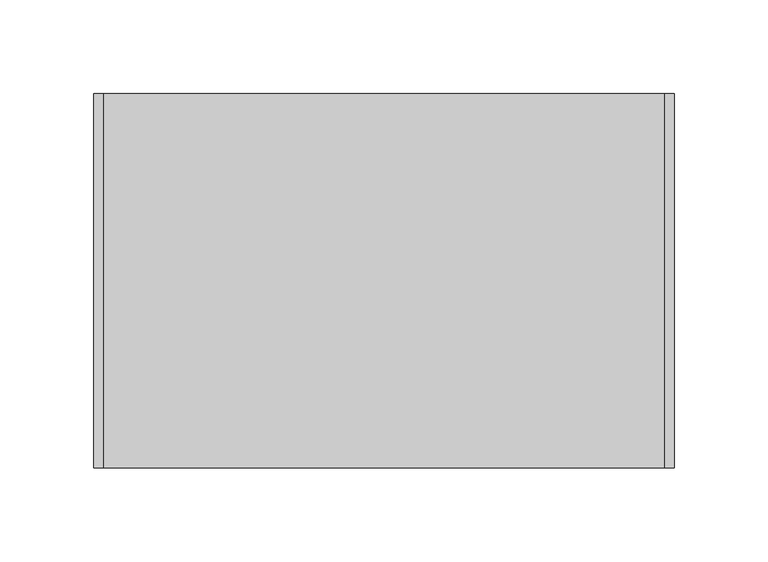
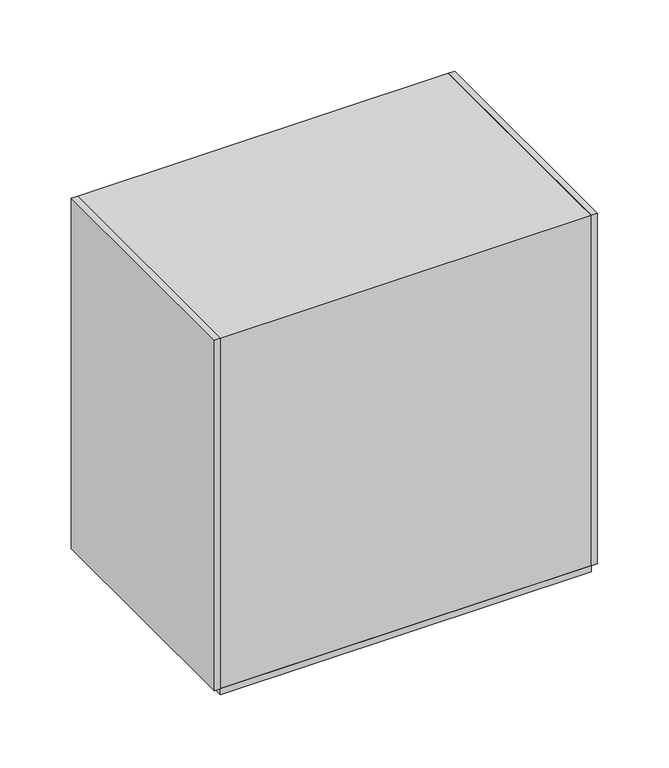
"""IFC4 building model written with IfcOpenShell, lengths in millimetres: proxy geometry, Módulo de Vedação de Concreto Celular - Celucon : MVCC 20x30x60cm (L x A x C) - Metade."""

from ifc_helpers import new_model, si_unit, frame, origin, origin_with_axes, place, context, project, spatial, polyline, outline, extrude, source, transform, mapped, element, save


def generic_models_a3310955(model_context):
    return source(origin(), model_context, "Body", "SweptSolid", [
        extrude(outline(polyline([(150.0, -100.0), (-150.0, -100.0), (-150.0, 100.0), (150.0, 100.0), (150.0, -100.0)])), frame((0.0, 0.0, -5.0), z_axis=(0.0, 0.0, 1.0), x_axis=(1.0, 0.0, 0.0)), (0.0, 0.0, 1.0), 5.0),
        extrude(outline(polyline([(155.0, -100.0), (150.0, -100.0), (150.0, 100.0), (155.0, 100.0), (155.0, -100.0)])), origin_with_axes(), (0.0, 0.0, 1.0), 300.0),
        extrude(outline(polyline([(-150.0, -100.0), (-155.0, -100.0), (-155.0, 100.0), (-150.0, 100.0), (-150.0, -100.0)])), origin_with_axes(), (0.0, 0.0, 1.0), 300.0),
        extrude(outline(polyline([(150.0, 100.0), (150.0, -100.0), (-150.0, -100.0), (-150.0, 100.0), (150.0, 100.0)])), origin_with_axes(), (0.0, 0.0, 1.0), 300.0),
    ])


if __name__ == "__main__":
    model = new_model("IFC4")
    model_context = context("Model", 3, world=origin())
    ifc_project = project(units=[si_unit("LENGTHUNIT", "METRE", prefix="MILLI")], contexts=[model_context])
    site = spatial("IfcSite", under=ifc_project)
    building = spatial("IfcBuilding", under=site)
    placement = place(None, origin())
    generic_models_shape = generic_models_a3310955(model_context)
    element("IfcBuildingElementProxy", 1, Name="Módulo de Vedação de Concreto Celular - Celucon : MVCC 20x30x60cm (L x A x C) - Metade", ObjectType="Módulo de Vedação de Concreto Celular - Celucon : MVCC 20x30x60cm (L x A x C) - Metade", at=placement, inside=building, context=model_context, shape_type="MappedRepresentation", body=[
        mapped(generic_models_shape, transform((0.0, 0.0, 0.0), x_axis=(1.0, 0.0, 0.0), y_axis=(0.0, 1.0, 0.0), z_axis=(0.0, 0.0, 1.0))),
    ])
    save(model, "model.ifc")
